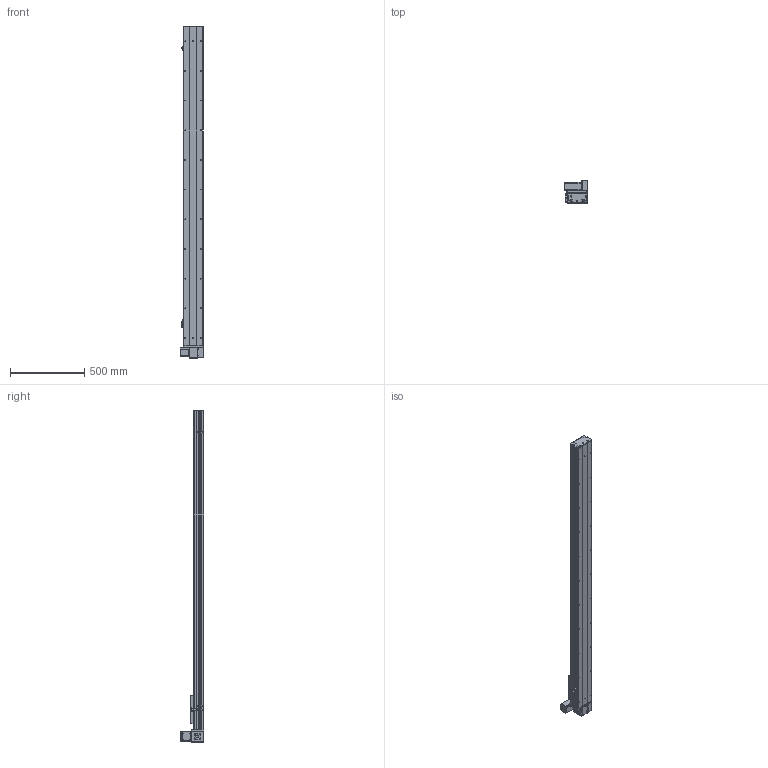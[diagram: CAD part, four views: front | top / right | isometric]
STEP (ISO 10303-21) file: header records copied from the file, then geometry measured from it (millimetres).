
FILE_DESCRIPTION (( 'STEP AP203' ), '1' );
FILE_NAME ('Y135CB-D90-S1850-UL-P400W.STEP', '2020-02-18T07:46:36', ( '微软用户' ), ( '微软中国' ), 'SwSTEP 2.0', 'SolidWorks 2017', '' );
FILE_SCHEMA (( 'CONFIG_CONTROL_DESIGN' ));
Length unit declared in the file: millimetre
Products named in the file (18): 0B-萇儂楊擘啣; Y10B-耜蚾蟀諉啣----; san松下电机400不带刹车----; 00B-俋欶BM--; 5CB --掛极耜裔啣-; Y10B--々湍喘謫眊--666; C-詩湍揤踡え-陔; Y135CB-耜裔; Y135CB-D90-S1850-UL-P400W; 135CB--詩湍-CE; 135CB---遴掛极.-; Y100-135俋离換覜ん--; 35CB---喘謫眊楊擘啣; Y135C-陔俋离換覜結え-; 0B-埴倛裔啣; 5C--俋欶; 0B-源倛裔啣; C-雄赽釱--
Assembly tree (21 placements, depth 2):
  Y135CB-D90-S1850-UL-P400W
    Y135CB-耜裔
    135CB---遴掛极.-
    35CB---喘謫眊楊擘啣
    0B-埴倛裔啣
    0B-源倛裔啣
    0B-萇儂楊擘啣
    san松下电机400不带刹车----
    5CB --掛极耜裔啣-  x2
    C-詩湍揤踡え-陔  x2
    135CB--詩湍-CE
    Y100-135俋离換覜ん--  x3
    Y135C-陔俋离換覜結え-
    5C--俋欶
    C-雄赽釱--
    Y10B-耜蚾蟀諉啣----
    00B-俋欶BM--
    Y10B--々湍喘謫眊--666
Bounding box: 157 x 158.7 x 2238 mm (x, y, z)
Volume: 6593884.2 mm3; surface area: 2602338 mm2
Topology: 21 solids, 21 shells, 961 faces, 2599 edges, 1722 vertices
Faces by surface type: cylinder 489, plane 456, cone 16
Entity records: 30157 total; most frequent: DIRECTION 5011, CARTESIAN_POINT 4988, ORIENTED_EDGE 4674, EDGE_CURVE 2337, AXIS2_PLACEMENT_3D 1833, VERTEX_POINT 1550, LINE 1345, VECTOR 1345
